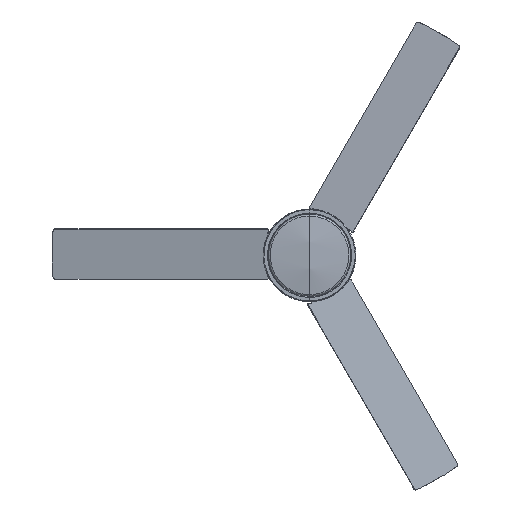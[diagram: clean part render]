
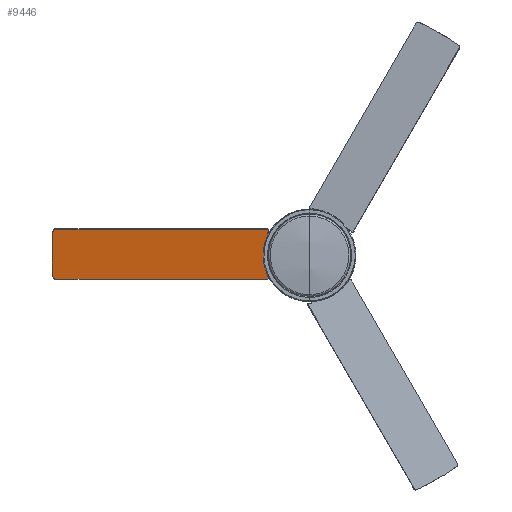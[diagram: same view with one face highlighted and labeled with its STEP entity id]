
A CAD part, top view. The second image highlights one B-rep face of the part: STEP entity #9446.
In plain terms, the highlighted planar face has unit normal (0, -0.174, 0.985).
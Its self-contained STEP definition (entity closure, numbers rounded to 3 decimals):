
#541=FACE_BOUND('',#1462,.T.);
#542=FACE_BOUND('',#1463,.T.);
#543=FACE_BOUND('',#1464,.T.);
#632=PLANE('',#10085);
#916=FACE_OUTER_BOUND('',#1461,.T.);
#1461=EDGE_LOOP('',(#6667,#6668,#6669,#6670,#6671,#6672,#6673,#6674,#6675,
#6676,#6677,#6678,#6679,#6680,#6681,#6682));
#1462=EDGE_LOOP('',(#6683,#6684));
#1463=EDGE_LOOP('',(#6685,#6686));
#1464=EDGE_LOOP('',(#6687,#6688));
#2071=LINE('',#13680,#2845);
#2076=LINE('',#13696,#2850);
#2080=LINE('',#13708,#2854);
#2084=LINE('',#13720,#2858);
#2090=LINE('',#13744,#2864);
#2094=LINE('',#13756,#2868);
#2845=VECTOR('',#11156,304.8);
#2850=VECTOR('',#11175,304.8);
#2854=VECTOR('',#11187,304.8);
#2858=VECTOR('',#11199,304.8);
#2864=VECTOR('',#11225,304.8);
#2868=VECTOR('',#11237,304.8);
#3606=CIRCLE('',#10033,660.665);
#3608=CIRCLE('',#10036,2.765);
#3610=CIRCLE('',#10039,2.765);
#3612=CIRCLE('',#10042,2.765);
#3614=CIRCLE('',#10045,2.765);
#3616=CIRCLE('',#10048,2.765);
#3618=CIRCLE('',#10051,2.765);
#3620=CIRCLE('',#10055,5.);
#3622=CIRCLE('',#10058,5.);
#3624=CIRCLE('',#10062,2.944);
#3626=CIRCLE('',#10066,2.966);
#3628=CIRCLE('',#10070,5.981);
#3630=CIRCLE('',#10073,90.071);
#3632=CIRCLE('',#10076,5.981);
#3634=CIRCLE('',#10080,2.966);
#3636=CIRCLE('',#10084,2.944);
#3978=VERTEX_POINT('',#13632);
#3979=VERTEX_POINT('',#13634);
#3982=VERTEX_POINT('',#13641);
#3983=VERTEX_POINT('',#13643);
#3986=VERTEX_POINT('',#13653);
#3987=VERTEX_POINT('',#13655);
#3990=VERTEX_POINT('',#13665);
#3991=VERTEX_POINT('',#13667);
#3994=VERTEX_POINT('',#13677);
#3995=VERTEX_POINT('',#13679);
#3997=VERTEX_POINT('',#13688);
#3999=VERTEX_POINT('',#13694);
#4001=VERTEX_POINT('',#13700);
#4003=VERTEX_POINT('',#13706);
#4005=VERTEX_POINT('',#13712);
#4007=VERTEX_POINT('',#13718);
#4009=VERTEX_POINT('',#13724);
#4011=VERTEX_POINT('',#13730);
#4013=VERTEX_POINT('',#13736);
#4015=VERTEX_POINT('',#13742);
#4017=VERTEX_POINT('',#13748);
#4019=VERTEX_POINT('',#13754);
#4964=EDGE_CURVE('',#3979,#3978,#3606,.T.);
#4968=EDGE_CURVE('',#3983,#3982,#3608,.T.);
#4971=EDGE_CURVE('',#3982,#3983,#3610,.T.);
#4974=EDGE_CURVE('',#3987,#3986,#3612,.T.);
#4977=EDGE_CURVE('',#3986,#3987,#3614,.T.);
#4980=EDGE_CURVE('',#3991,#3990,#3616,.T.);
#4983=EDGE_CURVE('',#3990,#3991,#3618,.T.);
#4986=EDGE_CURVE('',#3995,#3994,#2071,.T.);
#4989=EDGE_CURVE('',#3994,#3979,#3620,.T.);
#4992=EDGE_CURVE('',#3978,#3997,#3622,.T.);
#4995=EDGE_CURVE('',#3997,#3999,#2076,.T.);
#4998=EDGE_CURVE('',#3999,#4001,#3624,.T.);
#5001=EDGE_CURVE('',#4001,#4003,#2080,.T.);
#5004=EDGE_CURVE('',#4003,#4005,#3626,.T.);
#5007=EDGE_CURVE('',#4005,#4007,#2084,.T.);
#5010=EDGE_CURVE('',#4007,#4009,#3628,.T.);
#5013=EDGE_CURVE('',#4009,#4011,#3630,.T.);
#5016=EDGE_CURVE('',#4011,#4013,#3632,.T.);
#5019=EDGE_CURVE('',#4013,#4015,#2090,.T.);
#5022=EDGE_CURVE('',#4015,#4017,#3634,.T.);
#5025=EDGE_CURVE('',#4017,#4019,#2094,.T.);
#5027=EDGE_CURVE('',#4019,#3995,#3636,.T.);
#6667=ORIENTED_EDGE('',*,*,#4986,.T.);
#6668=ORIENTED_EDGE('',*,*,#4989,.T.);
#6669=ORIENTED_EDGE('',*,*,#4964,.T.);
#6670=ORIENTED_EDGE('',*,*,#4992,.T.);
#6671=ORIENTED_EDGE('',*,*,#4995,.T.);
#6672=ORIENTED_EDGE('',*,*,#4998,.T.);
#6673=ORIENTED_EDGE('',*,*,#5001,.T.);
#6674=ORIENTED_EDGE('',*,*,#5004,.T.);
#6675=ORIENTED_EDGE('',*,*,#5007,.T.);
#6676=ORIENTED_EDGE('',*,*,#5010,.T.);
#6677=ORIENTED_EDGE('',*,*,#5013,.T.);
#6678=ORIENTED_EDGE('',*,*,#5016,.T.);
#6679=ORIENTED_EDGE('',*,*,#5019,.T.);
#6680=ORIENTED_EDGE('',*,*,#5022,.T.);
#6681=ORIENTED_EDGE('',*,*,#5025,.T.);
#6682=ORIENTED_EDGE('',*,*,#5027,.T.);
#6683=ORIENTED_EDGE('',*,*,#4980,.T.);
#6684=ORIENTED_EDGE('',*,*,#4983,.T.);
#6685=ORIENTED_EDGE('',*,*,#4974,.T.);
#6686=ORIENTED_EDGE('',*,*,#4977,.T.);
#6687=ORIENTED_EDGE('',*,*,#4968,.T.);
#6688=ORIENTED_EDGE('',*,*,#4971,.T.);
#9446=ADVANCED_FACE('',(#916,#541,#542,#543),#632,.T.);
#10033=AXIS2_PLACEMENT_3D('',#13635,#11107,#11108);
#10036=AXIS2_PLACEMENT_3D('',#13644,#11115,#11116);
#10039=AXIS2_PLACEMENT_3D('',#13648,#11122,#11123);
#10042=AXIS2_PLACEMENT_3D('',#13656,#11129,#11130);
#10045=AXIS2_PLACEMENT_3D('',#13660,#11136,#11137);
#10048=AXIS2_PLACEMENT_3D('',#13668,#11143,#11144);
#10051=AXIS2_PLACEMENT_3D('',#13672,#11150,#11151);
#10055=AXIS2_PLACEMENT_3D('',#13684,#11162,#11163);
#10058=AXIS2_PLACEMENT_3D('',#13690,#11169,#11170);
#10062=AXIS2_PLACEMENT_3D('',#13702,#11181,#11182);
#10066=AXIS2_PLACEMENT_3D('',#13714,#11193,#11194);
#10070=AXIS2_PLACEMENT_3D('',#13726,#11205,#11206);
#10073=AXIS2_PLACEMENT_3D('',#13732,#11212,#11213);
#10076=AXIS2_PLACEMENT_3D('',#13738,#11219,#11220);
#10080=AXIS2_PLACEMENT_3D('',#13750,#11231,#11232);
#10084=AXIS2_PLACEMENT_3D('',#13759,#11242,#11243);
#10085=AXIS2_PLACEMENT_3D('',#13760,#11244,#11245);
#11107=DIRECTION('center_axis',(0.,-0.174,
0.985));
#11108=DIRECTION('ref_axis',(0.,-0.985,-0.174));
#11115=DIRECTION('center_axis',(0.,0.174,
-0.985));
#11116=DIRECTION('ref_axis',(0.,0.985,0.174));
#11122=DIRECTION('center_axis',(0.,0.174,
-0.985));
#11123=DIRECTION('ref_axis',(0.,0.985,0.174));
#11129=DIRECTION('center_axis',(0.,0.174,
-0.985));
#11130=DIRECTION('ref_axis',(0.,-0.985,-0.174));
#11136=DIRECTION('center_axis',(0.,0.174,
-0.985));
#11137=DIRECTION('ref_axis',(0.,-0.985,-0.174));
#11143=DIRECTION('center_axis',(0.,0.174,
-0.985));
#11144=DIRECTION('ref_axis',(0.,-0.985,-0.174));
#11150=DIRECTION('center_axis',(0.,0.174,
-0.985));
#11151=DIRECTION('ref_axis',(0.,-0.985,-0.174));
#11156=DIRECTION('',(-1.,0.,0.));
#11162=DIRECTION('center_axis',(0.,-0.174,
0.985));
#11163=DIRECTION('ref_axis',(0.,-0.985,-0.174));
#11169=DIRECTION('center_axis',(0.,-0.174,
0.985));
#11170=DIRECTION('ref_axis',(0.,0.985,0.174));
#11175=DIRECTION('',(1.,0.,0.));
#11181=DIRECTION('center_axis',(0.,-0.174,
0.985));
#11182=DIRECTION('ref_axis',(0.,0.985,0.174));
#11187=DIRECTION('',(-0.485,0.861,0.152));
#11193=DIRECTION('center_axis',(0.,0.174,
-0.985));
#11194=DIRECTION('ref_axis',(0.,0.985,0.174));
#11199=DIRECTION('',(1.,0.,0.));
#11205=DIRECTION('center_axis',(0.,-0.174,
0.985));
#11206=DIRECTION('ref_axis',(0.,0.985,0.174));
#11212=DIRECTION('center_axis',(0.,0.174,
-0.985));
#11213=DIRECTION('ref_axis',(0.,-0.985,-0.174));
#11219=DIRECTION('center_axis',(0.,-0.174,
0.985));
#11220=DIRECTION('ref_axis',(0.,-0.985,-0.174));
#11225=DIRECTION('',(-1.,0.,0.));
#11231=DIRECTION('center_axis',(0.,0.174,
-0.985));
#11232=DIRECTION('ref_axis',(0.,-0.985,-0.174));
#11237=DIRECTION('',(0.485,0.861,0.152));
#11242=DIRECTION('center_axis',(0.,-0.174,
0.985));
#11243=DIRECTION('ref_axis',(0.,-0.985,-0.174));
#11244=DIRECTION('center_axis',(0.,-0.174,
0.985));
#11245=DIRECTION('ref_axis',(1.,0.,0.));
#13632=CARTESIAN_POINT('',(-658.695,-56.516,227.026));
#13634=CARTESIAN_POINT('',(-658.695,62.11,247.943));
#13635=CARTESIAN_POINT('Origin',(-0.78,2.797,237.484));
#13641=CARTESIAN_POINT('',(-89.35,-36.848,230.494));
#13643=CARTESIAN_POINT('',(-89.35,-42.293,229.533));
#13644=CARTESIAN_POINT('Origin',(-89.35,-39.571,230.014));
#13648=CARTESIAN_POINT('Origin',(-89.35,-39.571,230.014));
#13653=CARTESIAN_POINT('',(-89.35,42.442,244.475));
#13655=CARTESIAN_POINT('',(-89.35,47.887,245.435));
#13656=CARTESIAN_POINT('Origin',(-89.35,45.165,244.955));
#13660=CARTESIAN_POINT('Origin',(-89.35,45.165,244.955));
#13665=CARTESIAN_POINT('',(-107.043,0.074,237.004));
#13667=CARTESIAN_POINT('',(-107.043,5.519,237.964));
#13668=CARTESIAN_POINT('Origin',(-107.043,2.797,237.484));
#13672=CARTESIAN_POINT('Origin',(-107.043,2.797,237.484));
#13677=CARTESIAN_POINT('',(-653.7,66.809,248.771));
#13679=CARTESIAN_POINT('',(-108.363,66.809,248.771));
#13680=CARTESIAN_POINT('',(-108.363,66.809,248.771));
#13684=CARTESIAN_POINT('Origin',(-653.7,61.885,247.903));
#13688=CARTESIAN_POINT('',(-653.7,-61.216,226.197));
#13690=CARTESIAN_POINT('Origin',(-653.7,-56.292,227.065));
#13694=CARTESIAN_POINT('',(-108.363,-61.216,226.197));
#13696=CARTESIAN_POINT('',(-653.7,-61.216,226.197));
#13700=CARTESIAN_POINT('',(-105.788,-56.911,226.956));
#13702=CARTESIAN_POINT('Origin',(-108.363,-58.316,226.708));
#13706=CARTESIAN_POINT('',(-107.853,-53.243,227.603));
#13708=CARTESIAN_POINT('',(-105.788,-56.911,226.956));
#13712=CARTESIAN_POINT('',(-105.258,-48.906,228.368));
#13714=CARTESIAN_POINT('Origin',(-105.258,-51.827,227.853));
#13718=CARTESIAN_POINT('',(-85.04,-48.906,228.368));
#13720=CARTESIAN_POINT('',(-105.258,-48.906,228.368));
#13724=CARTESIAN_POINT('',(-79.807,-40.162,229.909));
#13726=CARTESIAN_POINT('Origin',(-85.04,-43.015,229.406));
#13730=CARTESIAN_POINT('',(-79.807,45.756,245.059));
#13732=CARTESIAN_POINT('Origin',(-1.004,2.797,237.484));
#13736=CARTESIAN_POINT('',(-85.04,54.499,246.601));
#13738=CARTESIAN_POINT('Origin',(-85.04,48.609,245.562));
#13742=CARTESIAN_POINT('',(-105.258,54.499,246.601));
#13744=CARTESIAN_POINT('',(-85.04,54.499,246.601));
#13748=CARTESIAN_POINT('',(-107.853,58.837,247.365));
#13750=CARTESIAN_POINT('Origin',(-105.258,57.421,247.116));
#13754=CARTESIAN_POINT('',(-105.788,62.505,248.012));
#13756=CARTESIAN_POINT('',(-107.853,58.837,247.365));
#13759=CARTESIAN_POINT('Origin',(-108.363,63.91,248.26));
#13760=CARTESIAN_POINT('Origin',(-108.363,61.011,247.749));
